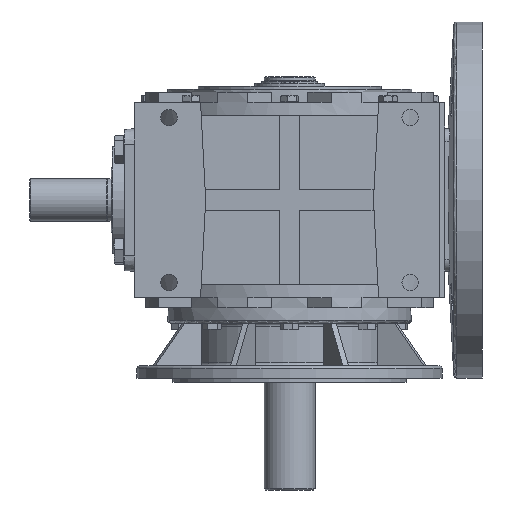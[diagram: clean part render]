
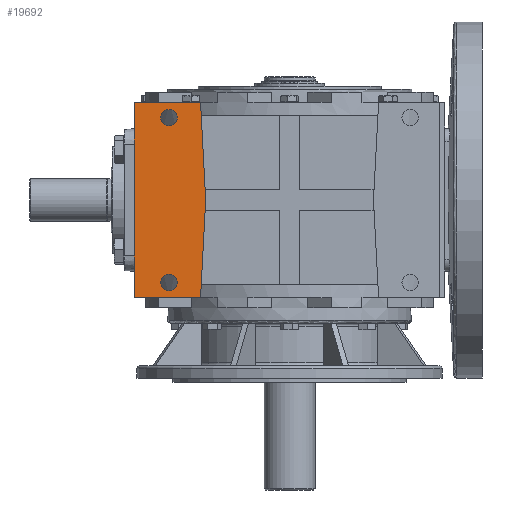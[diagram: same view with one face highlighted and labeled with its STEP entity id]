
A CAD part, front view. The second image highlights one B-rep face of the part: STEP entity #19692.
In plain terms, the highlighted planar face has unit normal (0, -1, 0).
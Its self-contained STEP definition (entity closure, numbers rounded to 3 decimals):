
#62 = VERTEX_POINT ( 'NONE', #16032 ) ;
#722 = DIRECTION ( 'NONE',  ( 0., 0., -1. ) ) ;
#2193 = CARTESIAN_POINT ( 'NONE',  ( -82.469, -210., 0. ) ) ;
#2709 = EDGE_CURVE ( 'NONE', #3153, #62, #31394, .T. ) ;
#3153 = VERTEX_POINT ( 'NONE', #32584 ) ;
#3442 = EDGE_CURVE ( 'NONE', #30264, #30264, #27227, .T. ) ;
#3796 = EDGE_CURVE ( 'NONE', #5155, #3153, #25072, .T. ) ;
#4934 = EDGE_CURVE ( 'NONE', #11829, #17216, #18851, .T. ) ;
#5155 = VERTEX_POINT ( 'NONE', #27388 ) ;
#6613 = AXIS2_PLACEMENT_3D ( 'NONE', #40394, #21273, #722 ) ;
#6813 = ORIENTED_EDGE ( 'NONE', *, *, #3796, .F. ) ;
#6998 = EDGE_CURVE ( 'NONE', #62, #13225, #7606, .T. ) ;
#7115 = VECTOR ( 'NONE', #41949, 1000. ) ;
#7606 = LINE ( 'NONE', #19550, #7115 ) ;
#7897 = DIRECTION ( 'NONE',  ( 0., 1., 0. ) ) ;
#8896 = EDGE_LOOP ( 'NONE', ( #25447, #15074, #31454, #6813, #27939, #34945, #26557 ) ) ;
#9293 = CARTESIAN_POINT ( 'NONE',  ( -87.5, -210., -96. ) ) ;
#11444 = VERTEX_POINT ( 'NONE', #24873 ) ;
#11506 = CARTESIAN_POINT ( 'NONE',  ( -87.5, -210., 96. ) ) ;
#11829 = VERTEX_POINT ( 'NONE', #2193 ) ;
#12208 = DIRECTION ( 'NONE',  ( 0.052, 0., -0.999 ) ) ;
#13039 = DIRECTION ( 'NONE',  ( 0., 0., 1. ) ) ;
#13213 = DIRECTION ( 'NONE',  ( -1., 0., 0. ) ) ;
#13225 = VERTEX_POINT ( 'NONE', #23573 ) ;
#13596 = LINE ( 'NONE', #38539, #13676 ) ;
#13676 = VECTOR ( 'NONE', #19248, 1000. ) ;
#15074 = ORIENTED_EDGE ( 'NONE', *, *, #6998, .F. ) ;
#15314 = LINE ( 'NONE', #22430, #16516 ) ;
#15444 = CARTESIAN_POINT ( 'NONE',  ( -152.5, -210., -55. ) ) ;
#15644 = CARTESIAN_POINT ( 'NONE',  ( -118.5, -210., 73. ) ) ;
#16032 = CARTESIAN_POINT ( 'NONE',  ( -152.5, -210., 55. ) ) ;
#16050 = CARTESIAN_POINT ( 'NONE',  ( -87.5, -210., -96. ) ) ;
#16516 = VECTOR ( 'NONE', #12208, 1000. ) ;
#17216 = VERTEX_POINT ( 'NONE', #9293 ) ;
#17759 = CARTESIAN_POINT ( 'NONE',  ( -118.5, -210., 81. ) ) ;
#17978 = CARTESIAN_POINT ( 'NONE',  ( -87.5, -210., -96. ) ) ;
#18448 = VECTOR ( 'NONE', #29525, 1000. ) ;
#18851 = LINE ( 'NONE', #16050, #18448 ) ;
#19248 = DIRECTION ( 'NONE',  ( -1., 0., 0. ) ) ;
#19550 = CARTESIAN_POINT ( 'NONE',  ( -152.5, -210., -96. ) ) ;
#19692 = ADVANCED_FACE ( 'NONE', ( #25009, #25137, #24681 ), #28009, .F. ) ;
#19746 = VERTEX_POINT ( 'NONE', #11506 ) ;
#21198 = DIRECTION ( 'NONE',  ( 0., 0., -1. ) ) ;
#21273 = DIRECTION ( 'NONE',  ( 0., -1., 0. ) ) ;
#21787 = CIRCLE ( 'NONE', #6613, 8. ) ;
#22430 = CARTESIAN_POINT ( 'NONE',  ( -82.469, -210., 0. ) ) ;
#23573 = CARTESIAN_POINT ( 'NONE',  ( -152.5, -210., 96. ) ) ;
#24060 = EDGE_CURVE ( 'NONE', #19746, #13225, #29261, .T. ) ;
#24582 = AXIS2_PLACEMENT_3D ( 'NONE', #17978, #7897, #31247 ) ;
#24681 = FACE_OUTER_BOUND ( 'NONE', #8896, .T. ) ;
#24751 = EDGE_CURVE ( 'NONE', #11444, #11444, #21787, .T. ) ;
#24873 = CARTESIAN_POINT ( 'NONE',  ( -118.5, -210., -89. ) ) ;
#25009 = FACE_BOUND ( 'NONE', #37876, .T. ) ;
#25072 = LINE ( 'NONE', #32799, #25190 ) ;
#25137 = FACE_BOUND ( 'NONE', #30647, .T. ) ;
#25190 = VECTOR ( 'NONE', #13039, 1000. ) ;
#25447 = ORIENTED_EDGE ( 'NONE', *, *, #24060, .T. ) ;
#25551 = EDGE_CURVE ( 'NONE', #17216, #5155, #13596, .T. ) ;
#26557 = ORIENTED_EDGE ( 'NONE', *, *, #28073, .F. ) ;
#26736 = ORIENTED_EDGE ( 'NONE', *, *, #3442, .F. ) ;
#27227 = CIRCLE ( 'NONE', #37389, 8. ) ;
#27388 = CARTESIAN_POINT ( 'NONE',  ( -152.5, -210., -96. ) ) ;
#27939 = ORIENTED_EDGE ( 'NONE', *, *, #25551, .F. ) ;
#28009 = PLANE ( 'NONE',  #24582 ) ;
#28036 = ORIENTED_EDGE ( 'NONE', *, *, #24751, .F. ) ;
#28073 = EDGE_CURVE ( 'NONE', #19746, #11829, #15314, .T. ) ;
#28925 = VECTOR ( 'NONE', #13213, 1000. ) ;
#29261 = LINE ( 'NONE', #39247, #28925 ) ;
#29525 = DIRECTION ( 'NONE',  ( -0.052, 0., -0.999 ) ) ;
#30264 = VERTEX_POINT ( 'NONE', #15644 ) ;
#30647 = EDGE_LOOP ( 'NONE', ( #26736 ) ) ;
#31110 = VECTOR ( 'NONE', #41326, 1000. ) ;
#31247 = DIRECTION ( 'NONE',  ( 0., 0., 1. ) ) ;
#31394 = LINE ( 'NONE', #15444, #31110 ) ;
#31454 = ORIENTED_EDGE ( 'NONE', *, *, #2709, .F. ) ;
#32584 = CARTESIAN_POINT ( 'NONE',  ( -152.5, -210., -55. ) ) ;
#32799 = CARTESIAN_POINT ( 'NONE',  ( -152.5, -210., -96. ) ) ;
#34945 = ORIENTED_EDGE ( 'NONE', *, *, #4934, .F. ) ;
#37389 = AXIS2_PLACEMENT_3D ( 'NONE', #17759, #40333, #21198 ) ;
#37876 = EDGE_LOOP ( 'NONE', ( #28036 ) ) ;
#38539 = CARTESIAN_POINT ( 'NONE',  ( -87.5, -210., -96. ) ) ;
#39247 = CARTESIAN_POINT ( 'NONE',  ( -87.5, -210., 96. ) ) ;
#40333 = DIRECTION ( 'NONE',  ( 0., -1., 0. ) ) ;
#40394 = CARTESIAN_POINT ( 'NONE',  ( -118.5, -210., -81. ) ) ;
#41326 = DIRECTION ( 'NONE',  ( 0., 0., 1. ) ) ;
#41949 = DIRECTION ( 'NONE',  ( 0., 0., 1. ) ) ;
